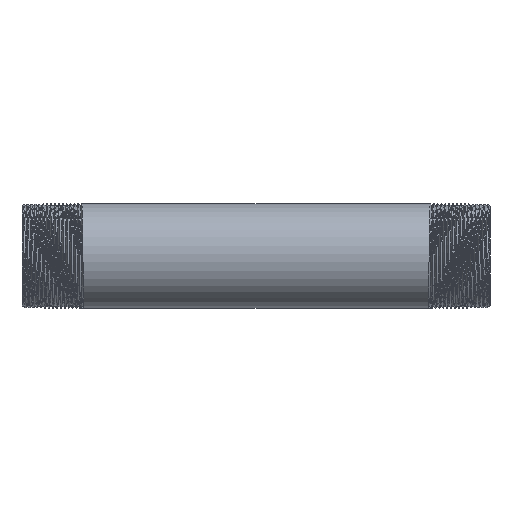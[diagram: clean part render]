
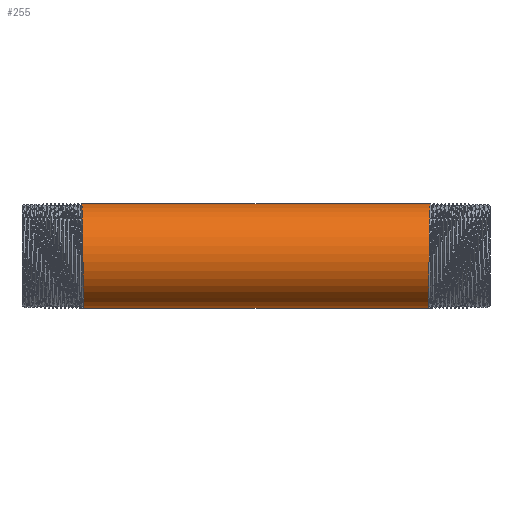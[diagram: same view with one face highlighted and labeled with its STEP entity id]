
A CAD part, front view. The second image highlights one B-rep face of the part: STEP entity #255.
In plain terms, the highlighted cylindrical face has radius 13.45 mm (diameter 26.9 mm), a partial arc.
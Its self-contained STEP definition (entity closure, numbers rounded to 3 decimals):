
#216 = EDGE_CURVE ( 'NONE', #1820, #7431, #5833, .T. ) ;
#255 = ADVANCED_FACE ( 'NONE', ( #13297 ), #8170, .T. ) ;
#453 = CARTESIAN_POINT ( 'NONE',  ( -44.188, -5.571, -13.45 ) ) ;
#521 = VERTEX_POINT ( 'NONE', #9476 ) ;
#523 = CARTESIAN_POINT ( 'NONE',  ( -44.563, -5.571, 13.45 ) ) ;
#1555 = ORIENTED_EDGE ( 'NONE', *, *, #3026, .T. ) ;
#1758 = CARTESIAN_POINT ( 'NONE',  ( 44.438, -13.45, 5.571 ) ) ;
#1820 = VERTEX_POINT ( 'NONE', #6217 ) ;
#1890 = EDGE_LOOP ( 'NONE', ( #5062, #6337, #1555, #5817 ) ) ;
#2072 = EDGE_CURVE ( 'NONE', #4453, #521, #9041, .T. ) ;
#2086 = VECTOR ( 'NONE', #11816, 1000. ) ;
#2131 = DIRECTION ( 'NONE',  ( -1., 0., 0. ) ) ;
#2208 = CARTESIAN_POINT ( 'NONE',  ( 44.5, -9.511, 9.511 ) ) ;
#2480 = CARTESIAN_POINT ( 'NONE',  ( -44.625, 0., 13.45 ) ) ;
#2549 = CARTESIAN_POINT ( 'NONE',  ( -44.125, 0., -13.45 ) ) ;
#3026 = EDGE_CURVE ( 'NONE', #7431, #521, #7630, .T. ) ;
#3368 = CARTESIAN_POINT ( 'NONE',  ( -44.313, -13.45, -5.571 ) ) ;
#3423 = EDGE_CURVE ( 'NONE', #1820, #4453, #12345, .T. ) ;
#4453 = VERTEX_POINT ( 'NONE', #6067 ) ;
#4794 = CARTESIAN_POINT ( 'NONE',  ( 44.188, -5.571, -13.45 ) ) ;
#5062 = ORIENTED_EDGE ( 'NONE', *, *, #3423, .F. ) ;
#5181 = CARTESIAN_POINT ( 'NONE',  ( 44.625, 0., 13.45 ) ) ;
#5465 = CARTESIAN_POINT ( 'NONE',  ( -44.25, -9.511, -9.511 ) ) ;
#5817 = ORIENTED_EDGE ( 'NONE', *, *, #2072, .F. ) ;
#5833 =( BOUNDED_CURVE ( )  B_SPLINE_CURVE ( 2, ( #6821, #4794, #13043, #6892, #11010, #1758, #2208, #7150, #5181 ),
 .UNSPECIFIED., .F., .F. ) 
 B_SPLINE_CURVE_WITH_KNOTS ( ( 3, 2, 2, 2, 3 ),
 ( 0., 0.006, 0.013, 0.019, 0.025 ),
 .UNSPECIFIED. ) 
 CURVE ( )  GEOMETRIC_REPRESENTATION_ITEM ( )  RATIONAL_B_SPLINE_CURVE ( ( 1., 0.924, 1., 0.924, 1., 0.924, 1., 0.924, 1. ) ) 
 REPRESENTATION_ITEM ( '' )  );
#6067 = CARTESIAN_POINT ( 'NONE',  ( -44.125, 0., -13.45 ) ) ;
#6217 = CARTESIAN_POINT ( 'NONE',  ( 44.125, 0., -13.45 ) ) ;
#6333 = DIRECTION ( 'NONE',  ( 0., 0., 1. ) ) ;
#6337 = ORIENTED_EDGE ( 'NONE', *, *, #216, .T. ) ;
#6710 = CARTESIAN_POINT ( 'NONE',  ( 44.625, 0., 13.45 ) ) ;
#6821 = CARTESIAN_POINT ( 'NONE',  ( 44.125, 0., -13.45 ) ) ;
#6892 = CARTESIAN_POINT ( 'NONE',  ( 44.313, -13.45, -5.571 ) ) ;
#7150 = CARTESIAN_POINT ( 'NONE',  ( 44.563, -5.571, 13.45 ) ) ;
#7431 = VERTEX_POINT ( 'NONE', #6710 ) ;
#7494 = CARTESIAN_POINT ( 'NONE',  ( -44.5, -9.511, 9.511 ) ) ;
#7563 = CARTESIAN_POINT ( 'NONE',  ( -44.438, -13.45, 5.571 ) ) ;
#7630 = LINE ( 'NONE', #11745, #2086 ) ;
#8170 = CYLINDRICAL_SURFACE ( 'NONE', #9520, 13.45 ) ;
#8566 = VECTOR ( 'NONE', #2131, 1000. ) ;
#9041 =( BOUNDED_CURVE ( )  B_SPLINE_CURVE ( 2, ( #2549, #453, #5465, #3368, #12825, #7563, #7494, #523, #2480 ),
 .UNSPECIFIED., .F., .F. ) 
 B_SPLINE_CURVE_WITH_KNOTS ( ( 3, 2, 2, 2, 3 ),
 ( 0., 0.006, 0.013, 0.019, 0.025 ),
 .UNSPECIFIED. ) 
 CURVE ( )  GEOMETRIC_REPRESENTATION_ITEM ( )  RATIONAL_B_SPLINE_CURVE ( ( 1., 0.924, 1., 0.924, 1., 0.924, 1., 0.924, 1. ) ) 
 REPRESENTATION_ITEM ( '' )  );
#9476 = CARTESIAN_POINT ( 'NONE',  ( -44.625, 0., 13.45 ) ) ;
#9520 = AXIS2_PLACEMENT_3D ( 'NONE', #12350, #10256, #6333 ) ;
#10256 = DIRECTION ( 'NONE',  ( -1., 0., 0. ) ) ;
#11010 = CARTESIAN_POINT ( 'NONE',  ( 44.375, -13.45, 0. ) ) ;
#11387 = CARTESIAN_POINT ( 'NONE',  ( -149.494, 0., -13.45 ) ) ;
#11745 = CARTESIAN_POINT ( 'NONE',  ( -149.494, 0., 13.45 ) ) ;
#11816 = DIRECTION ( 'NONE',  ( -1., 0., 0. ) ) ;
#12345 = LINE ( 'NONE', #11387, #8566 ) ;
#12350 = CARTESIAN_POINT ( 'NONE',  ( -149.494, 0., 0. ) ) ;
#12825 = CARTESIAN_POINT ( 'NONE',  ( -44.375, -13.45, 0. ) ) ;
#13043 = CARTESIAN_POINT ( 'NONE',  ( 44.25, -9.511, -9.511 ) ) ;
#13297 = FACE_OUTER_BOUND ( 'NONE', #1890, .T. ) ;
